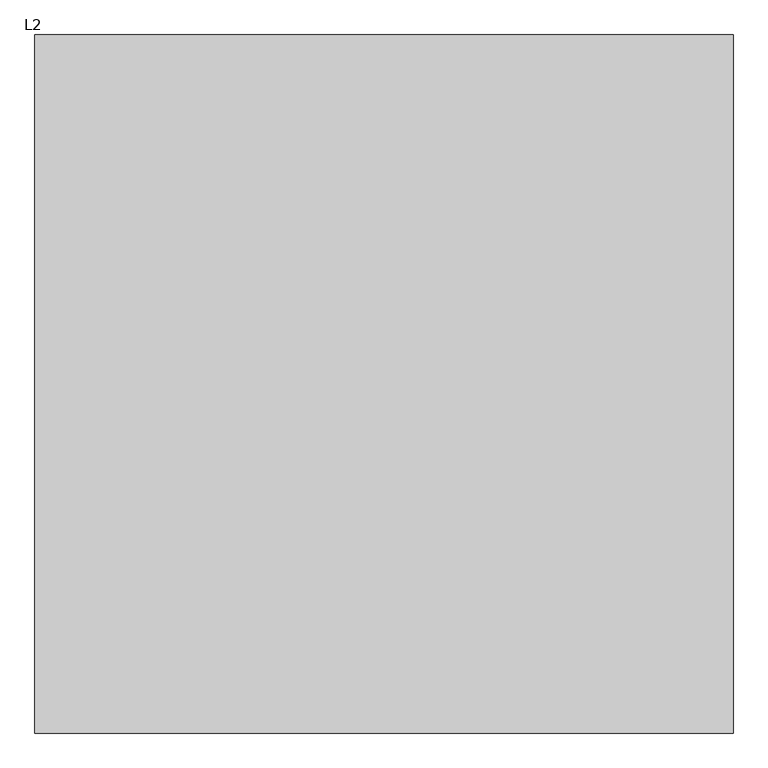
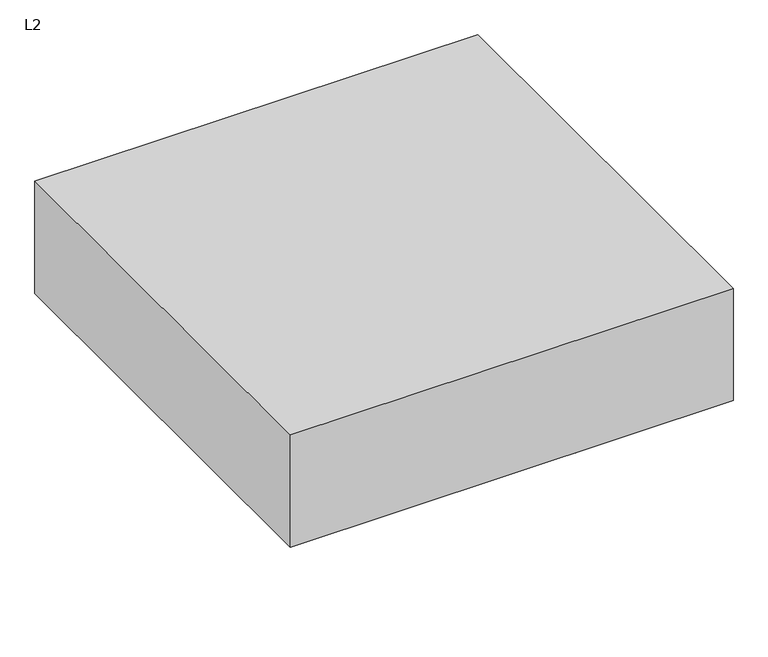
"""IFC4 building model written with IfcOpenShell, lengths in millimetres: proxy geometry, OWA Corpus : L2."""

from ifc_helpers import new_model, si_unit, point, frame, frame_2d, origin, place, context, project, spatial, polyline, circle_curve, trimmed, segment, composite_curve, outline, extrude, faceted_brep, source, transform, mapped, element, save
from ifc_brep_helpers import plane_surface, cylinder_surface, revolved_surface, advanced_brep


def l2_f4ee8ea0(model_context):
    return source(origin(), model_context, "Body", "SolidModel", [
        advanced_brep(
        [(-128.5, -305.0, 0.0), (-120.7593825, -305.0, 0.0), (-136.2406175, -305.0, 0.0), (-120.7593825, -305.0, 15.0), (-136.2406175, -305.0, 15.0), (-121.6843825, -305.0, 15.0), (-135.3156175, -305.0, 15.0), (-121.6843825, -305.0, 19.0), (-135.3156175, -305.0, 19.0), (-126.4343825, -305.0, 19.0), (-130.5656175, -305.0, 19.0), (-126.4343825, -305.0, 22.546183), (-130.5656175, -305.0, 22.546183), (-128.5, -305.0, 22.546183)],
        [
            (0, 1),
            (1, 2, circle_curve(frame((-128.5, -305.0, 0.0), z_axis=(0.0, 0.0, -1.0), x_axis=(-1.0, 0.0, 0.0)), 7.7406175)),
            (2, 0),
            (2, 1, circle_curve(frame((-128.5, -305.0, 0.0), z_axis=(0.0, 0.0, -1.0), x_axis=(-1.0, 0.0, 0.0)), 7.7406175)),
            (1, 3),
            (3, 4, circle_curve(frame((-128.5, -305.0, 15.0), z_axis=(0.0, 0.0, -1.0), x_axis=(-1.0, 0.0, 0.0)), 7.7406175)),
            (4, 2),
            (4, 3, circle_curve(frame((-128.5, -305.0, 15.0), z_axis=(0.0, 0.0, -1.0), x_axis=(-1.0, 0.0, 0.0)), 7.7406175)),
            (3, 5),
            (5, 6, circle_curve(frame((-128.5, -305.0, 15.0), z_axis=(0.0, 0.0, -1.0), x_axis=(-1.0, 0.0, 0.0)), 6.8156175)),
            (6, 4),
            (6, 5, circle_curve(frame((-128.5, -305.0, 15.0), z_axis=(0.0, 0.0, -1.0), x_axis=(-1.0, 0.0, 0.0)), 6.8156175)),
            (5, 7),
            (7, 8, circle_curve(frame((-128.5, -305.0, 19.0), z_axis=(0.0, 0.0, -1.0), x_axis=(-1.0, 0.0, 0.0)), 6.8156175)),
            (8, 6),
            (8, 7, circle_curve(frame((-128.5, -305.0, 19.0), z_axis=(0.0, 0.0, -1.0), x_axis=(-1.0, 0.0, 0.0)), 6.8156175)),
            (7, 9),
            (9, 10, circle_curve(frame((-128.5, -305.0, 19.0), z_axis=(0.0, 0.0, -1.0), x_axis=(-1.0, 0.0, 0.0)), 2.0656175)),
            (10, 8),
            (10, 9, circle_curve(frame((-128.5, -305.0, 19.0), z_axis=(0.0, 0.0, -1.0), x_axis=(-1.0, 0.0, 0.0)), 2.0656175)),
            (9, 11),
            (11, 12, circle_curve(frame((-128.5, -305.0, 22.546183), z_axis=(0.0, 0.0, -1.0), x_axis=(-1.0, 0.0, 0.0)), 2.0656175)),
            (12, 10),
            (12, 11, circle_curve(frame((-128.5, -305.0, 22.546183), z_axis=(0.0, 0.0, -1.0), x_axis=(-1.0, 0.0, 0.0)), 2.0656175)),
            (11, 13),
            (13, 12),
        ],
        [
            plane_surface(frame((-128.5, -305.0, 0.0), z_axis=(0.0, 0.0, -1.0), x_axis=(-1.0, 0.0, 0.0))),
            cylinder_surface(frame((-128.5, -305.0, -10.0), z_axis=(0.0, 0.0, -1.0), x_axis=(-1.0, 0.0, 0.0)), 7.7406175),
            plane_surface(frame((-128.5, -305.0, 15.0), z_axis=(0.0, 0.0, 1.0), x_axis=(-1.0, 0.0, 0.0))),
            cylinder_surface(frame((-128.5, -305.0, -10.0), z_axis=(0.0, 0.0, -1.0), x_axis=(-1.0, 0.0, 0.0)), 6.8156175),
            plane_surface(frame((-128.5, -305.0, 19.0), z_axis=(0.0, 0.0, 1.0), x_axis=(-1.0, 0.0, 0.0))),
            cylinder_surface(frame((-128.5, -305.0, -10.0), z_axis=(0.0, 0.0, -1.0), x_axis=(-1.0, 0.0, 0.0)), 2.0656175),
            plane_surface(frame((-128.5, -305.0, 22.546183), z_axis=(0.0, 0.0, 1.0), x_axis=(-1.0, 0.0, 0.0))),
        ],
        [
            (0, [[1, 2, 3]]),
            (0, [[-3, 4, -1]]),
            (1, [[5, 6, 7, -2]]),
            (1, [[-7, 8, -5, -4]]),
            (2, [[9, 10, 11, -6]]),
            (2, [[-11, 12, -9, -8]]),
            (3, [[13, 14, 15, -10]]),
            (3, [[-15, 16, -13, -12]]),
            (4, [[17, 18, 19, -14]]),
            (4, [[-19, 20, -17, -16]]),
            (5, [[21, 22, 23, -18]]),
            (5, [[-23, 24, -21, -20]]),
            (6, [[25, 26, -22]]),
            (6, [[-26, -25, -24]]),
        ],
    ),
        advanced_brep(
        [(-126.2615389, -305.0, 428.8211737), (-126.1339453, -305.0, 432.8711737), (-130.8660547, -305.0, 432.8711737), (-130.7384611, -305.0, 428.8211737), (-123.6339453, -305.0, 432.8711737), (-133.3660547, -305.0, 432.8711737), (-123.6339453, -305.0, 458.1211737), (-133.3660547, -305.0, 458.1211737), (-112.6339453, -305.0, 458.1211737), (-144.3660547, -305.0, 458.1211737), (-112.6339453, -305.0, 460.0), (-144.3660547, -305.0, 460.0), (-128.5, -305.0, 460.0), (-128.5, -305.0, 428.8211737)],
        [
            (0, 1),
            (1, 2, circle_curve(frame((-128.5, -305.0, 432.8711737), z_axis=(0.0, 0.0, -1.0), x_axis=(-1.0, 0.0, 0.0)), 2.3660547)),
            (2, 3),
            (3, 0, circle_curve(frame((-128.5, -305.0, 428.8211737), z_axis=(0.0, 0.0, 1.0), x_axis=(-1.0, 0.0, 0.0)), 2.2384611)),
            (2, 1, circle_curve(frame((-128.5, -305.0, 432.8711737), z_axis=(0.0, 0.0, -1.0), x_axis=(-1.0, 0.0, 0.0)), 2.3660547)),
            (0, 3, circle_curve(frame((-128.5, -305.0, 428.8211737), z_axis=(0.0, 0.0, 1.0), x_axis=(-1.0, 0.0, 0.0)), 2.2384611)),
            (1, 4),
            (4, 5, circle_curve(frame((-128.5, -305.0, 432.8711737), z_axis=(0.0, 0.0, -1.0), x_axis=(-1.0, 0.0, 0.0)), 4.8660547)),
            (5, 2),
            (5, 4, circle_curve(frame((-128.5, -305.0, 432.8711737), z_axis=(0.0, 0.0, -1.0), x_axis=(-1.0, 0.0, 0.0)), 4.8660547)),
            (4, 6),
            (6, 7, circle_curve(frame((-128.5, -305.0, 458.1211737), z_axis=(0.0, 0.0, -1.0), x_axis=(-1.0, 0.0, 0.0)), 4.8660547)),
            (7, 5),
            (7, 6, circle_curve(frame((-128.5, -305.0, 458.1211737), z_axis=(0.0, 0.0, -1.0), x_axis=(-1.0, 0.0, 0.0)), 4.8660547)),
            (6, 8),
            (8, 9, circle_curve(frame((-128.5, -305.0, 458.1211737), z_axis=(0.0, 0.0, -1.0), x_axis=(-1.0, 0.0, 0.0)), 15.8660547)),
            (9, 7),
            (9, 8, circle_curve(frame((-128.5, -305.0, 458.1211737), z_axis=(0.0, 0.0, -1.0), x_axis=(-1.0, 0.0, 0.0)), 15.8660547)),
            (8, 10),
            (10, 11, circle_curve(frame((-128.5, -305.0, 460.0), z_axis=(0.0, 0.0, -1.0), x_axis=(-1.0, 0.0, 0.0)), 15.8660547)),
            (11, 9),
            (11, 10, circle_curve(frame((-128.5, -305.0, 460.0), z_axis=(0.0, 0.0, -1.0), x_axis=(-1.0, 0.0, 0.0)), 15.8660547)),
            (10, 12),
            (12, 11),
            (13, 0),
            (3, 13),
        ],
        [
            revolved_surface(polyline([(-130.8660547, -305.0, 432.8711737), (-130.7384611, -305.0, 428.8211737)]), (-128.5, -305.0, 461.8401096), (0.0, 0.0, -1.0)),
            plane_surface(frame((-128.5, -305.0, 432.8711737), z_axis=(0.0, 0.0, -1.0), x_axis=(-1.0, 0.0, 0.0))),
            cylinder_surface(frame((-128.5, -305.0, 461.8401096), z_axis=(0.0, 0.0, -1.0), x_axis=(-1.0, 0.0, 0.0)), 4.8660547),
            plane_surface(frame((-128.5, -305.0, 458.1211737), z_axis=(0.0, 0.0, -1.0), x_axis=(-1.0, 0.0, 0.0))),
            cylinder_surface(frame((-128.5, -305.0, 461.8401096), z_axis=(0.0, 0.0, -1.0), x_axis=(-1.0, 0.0, 0.0)), 15.8660547),
            plane_surface(frame((-128.5, -305.0, 460.0), z_axis=(0.0, 0.0, 1.0), x_axis=(-1.0, 0.0, 0.0))),
            plane_surface(frame((-128.5, -305.0, 428.8211737), z_axis=(0.0, 0.0, -1.0), x_axis=(-1.0, 0.0, 0.0))),
        ],
        [
            (0, [[1, 2, 3, 4]]),
            (0, [[-3, 5, -1, 6]]),
            (1, [[7, 8, 9, -2]]),
            (1, [[-9, 10, -7, -5]]),
            (2, [[11, 12, 13, -8]]),
            (2, [[-13, 14, -11, -10]]),
            (3, [[15, 16, 17, -12]]),
            (3, [[-17, 18, -15, -14]]),
            (4, [[19, 20, 21, -16]]),
            (4, [[-21, 22, -19, -18]]),
            (5, [[23, 24, -20]]),
            (5, [[-24, -23, -22]]),
            (6, [[25, -4, 26]]),
            (6, [[-26, -6, -25]]),
        ],
    ),
        extrude(outline(composite_curve([segment(trimmed(circle_curve(frame_2d((-128.5, -305.0)), 1.0), [point((-129.5, -305.0))], [point((-127.5, -305.0))], False, "CARTESIAN"), True, "CONTINUOUS"), segment(trimmed(circle_curve(frame_2d((-128.5, -305.0)), 1.0), [point((-127.5, -305.0))], [point((-129.5, -305.0))], False, "CARTESIAN"), True, "CONTINUOUS")], self_intersect=False)), frame((0.0, 0.0, 22.546183), z_axis=(0.0, 0.0, 1.0), x_axis=(1.0, 0.0, 0.0)), (0.0, 0.0, 1.0), 406.2749908),
        advanced_brep(
        [(-128.5, 305.0, 0.0), (-136.2406175, 305.0, 0.0), (-120.7593825, 305.0, 0.0), (-136.2406175, 305.0, 15.0), (-120.7593825, 305.0, 15.0), (-135.3156175, 305.0, 15.0), (-121.6843825, 305.0, 15.0), (-135.3156175, 305.0, 19.0), (-121.6843825, 305.0, 19.0), (-130.5656175, 305.0, 19.0), (-126.4343825, 305.0, 19.0), (-130.5656175, 305.0, 22.546183), (-126.4343825, 305.0, 22.546183), (-128.5, 305.0, 22.546183)],
        [
            (0, 1),
            (1, 2, circle_curve(frame((-128.5, 305.0, 0.0), z_axis=(0.0, 0.0, -1.0), x_axis=(-1.0, 0.0, 0.0)), 7.7406175)),
            (2, 0),
            (2, 1, circle_curve(frame((-128.5, 305.0, 0.0), z_axis=(0.0, 0.0, -1.0), x_axis=(-1.0, 0.0, 0.0)), 7.7406175)),
            (1, 3),
            (3, 4, circle_curve(frame((-128.5, 305.0, 15.0), z_axis=(0.0, 0.0, -1.0), x_axis=(-1.0, 0.0, 0.0)), 7.7406175)),
            (4, 2),
            (4, 3, circle_curve(frame((-128.5, 305.0, 15.0), z_axis=(0.0, 0.0, -1.0), x_axis=(-1.0, 0.0, 0.0)), 7.7406175)),
            (3, 5),
            (5, 6, circle_curve(frame((-128.5, 305.0, 15.0), z_axis=(0.0, 0.0, -1.0), x_axis=(-1.0, 0.0, 0.0)), 6.8156175)),
            (6, 4),
            (6, 5, circle_curve(frame((-128.5, 305.0, 15.0), z_axis=(0.0, 0.0, -1.0), x_axis=(-1.0, 0.0, 0.0)), 6.8156175)),
            (5, 7),
            (7, 8, circle_curve(frame((-128.5, 305.0, 19.0), z_axis=(0.0, 0.0, -1.0), x_axis=(-1.0, 0.0, 0.0)), 6.8156175)),
            (8, 6),
            (8, 7, circle_curve(frame((-128.5, 305.0, 19.0), z_axis=(0.0, 0.0, -1.0), x_axis=(-1.0, 0.0, 0.0)), 6.8156175)),
            (7, 9),
            (9, 10, circle_curve(frame((-128.5, 305.0, 19.0), z_axis=(0.0, 0.0, -1.0), x_axis=(-1.0, 0.0, 0.0)), 2.0656175)),
            (10, 8),
            (10, 9, circle_curve(frame((-128.5, 305.0, 19.0), z_axis=(0.0, 0.0, -1.0), x_axis=(-1.0, 0.0, 0.0)), 2.0656175)),
            (9, 11),
            (11, 12, circle_curve(frame((-128.5, 305.0, 22.546183), z_axis=(0.0, 0.0, -1.0), x_axis=(-1.0, 0.0, 0.0)), 2.0656175)),
            (12, 10),
            (12, 11, circle_curve(frame((-128.5, 305.0, 22.546183), z_axis=(0.0, 0.0, -1.0), x_axis=(-1.0, 0.0, 0.0)), 2.0656175)),
            (11, 13),
            (13, 12),
        ],
        [
            plane_surface(frame((-128.5, 305.0, 0.0), z_axis=(0.0, 0.0, -1.0), x_axis=(-1.0, 0.0, 0.0))),
            cylinder_surface(frame((-128.5, 305.0, -10.0), z_axis=(0.0, 0.0, -1.0), x_axis=(-1.0, 0.0, 0.0)), 7.7406175),
            plane_surface(frame((-128.5, 305.0, 15.0), z_axis=(0.0, 0.0, 1.0), x_axis=(-1.0, 0.0, 0.0))),
            cylinder_surface(frame((-128.5, 305.0, -10.0), z_axis=(0.0, 0.0, -1.0), x_axis=(-1.0, 0.0, 0.0)), 6.8156175),
            plane_surface(frame((-128.5, 305.0, 19.0), z_axis=(0.0, 0.0, 1.0), x_axis=(-1.0, 0.0, 0.0))),
            cylinder_surface(frame((-128.5, 305.0, -10.0), z_axis=(0.0, 0.0, -1.0), x_axis=(-1.0, 0.0, 0.0)), 2.0656175),
            plane_surface(frame((-128.5, 305.0, 22.546183), z_axis=(0.0, 0.0, 1.0), x_axis=(-1.0, 0.0, 0.0))),
        ],
        [
            (0, [[1, 2, 3]]),
            (0, [[-3, 4, -1]]),
            (1, [[-2, 5, 6, 7]]),
            (1, [[-4, -7, 8, -5]]),
            (2, [[-6, 9, 10, 11]]),
            (2, [[-8, -11, 12, -9]]),
            (3, [[-10, 13, 14, 15]]),
            (3, [[-12, -15, 16, -13]]),
            (4, [[-14, 17, 18, 19]]),
            (4, [[-16, -19, 20, -17]]),
            (5, [[-18, 21, 22, 23]]),
            (5, [[-20, -23, 24, -21]]),
            (6, [[-22, 25, 26]]),
            (6, [[-24, -26, -25]]),
        ],
    ),
        advanced_brep(
        [(-126.2615389, 305.0, 428.8211737), (-130.7384611, 305.0, 428.8211737), (-130.8660547, 305.0, 432.8711737), (-126.1339453, 305.0, 432.8711737), (-133.3660547, 305.0, 432.8711737), (-123.6339453, 305.0, 432.8711737), (-133.3660547, 305.0, 458.1211737), (-123.6339453, 305.0, 458.1211737), (-144.3660547, 305.0, 458.1211737), (-112.6339453, 305.0, 458.1211737), (-144.3660547, 305.0, 460.0), (-112.6339453, 305.0, 460.0), (-128.5, 305.0, 460.0), (-128.5, 305.0, 428.8211737)],
        [
            (0, 1, circle_curve(frame((-128.5, 305.0, 428.8211737), z_axis=(0.0, 0.0, 1.0), x_axis=(-1.0, 0.0, 0.0)), 2.2384611)),
            (1, 2),
            (2, 3, circle_curve(frame((-128.5, 305.0, 432.8711737), z_axis=(0.0, 0.0, -1.0), x_axis=(-1.0, 0.0, 0.0)), 2.3660547)),
            (3, 0),
            (1, 0, circle_curve(frame((-128.5, 305.0, 428.8211737), z_axis=(0.0, 0.0, 1.0), x_axis=(-1.0, 0.0, 0.0)), 2.2384611)),
            (3, 2, circle_curve(frame((-128.5, 305.0, 432.8711737), z_axis=(0.0, 0.0, -1.0), x_axis=(-1.0, 0.0, 0.0)), 2.3660547)),
            (2, 4),
            (4, 5, circle_curve(frame((-128.5, 305.0, 432.8711737), z_axis=(0.0, 0.0, -1.0), x_axis=(-1.0, 0.0, 0.0)), 4.8660547)),
            (5, 3),
            (5, 4, circle_curve(frame((-128.5, 305.0, 432.8711737), z_axis=(0.0, 0.0, -1.0), x_axis=(-1.0, 0.0, 0.0)), 4.8660547)),
            (4, 6),
            (6, 7, circle_curve(frame((-128.5, 305.0, 458.1211737), z_axis=(0.0, 0.0, -1.0), x_axis=(-1.0, 0.0, 0.0)), 4.8660547)),
            (7, 5),
            (7, 6, circle_curve(frame((-128.5, 305.0, 458.1211737), z_axis=(0.0, 0.0, -1.0), x_axis=(-1.0, 0.0, 0.0)), 4.8660547)),
            (6, 8),
            (8, 9, circle_curve(frame((-128.5, 305.0, 458.1211737), z_axis=(0.0, 0.0, -1.0), x_axis=(-1.0, 0.0, 0.0)), 15.8660547)),
            (9, 7),
            (9, 8, circle_curve(frame((-128.5, 305.0, 458.1211737), z_axis=(0.0, 0.0, -1.0), x_axis=(-1.0, 0.0, 0.0)), 15.8660547)),
            (8, 10),
            (10, 11, circle_curve(frame((-128.5, 305.0, 460.0), z_axis=(0.0, 0.0, -1.0), x_axis=(-1.0, 0.0, 0.0)), 15.8660547)),
            (11, 9),
            (11, 10, circle_curve(frame((-128.5, 305.0, 460.0), z_axis=(0.0, 0.0, -1.0), x_axis=(-1.0, 0.0, 0.0)), 15.8660547)),
            (10, 12),
            (12, 11),
            (13, 1),
            (0, 13),
        ],
        [
            revolved_surface(polyline([(-130.8660547, 305.0, 432.8711737), (-130.7384611, 305.0, 428.8211737)]), (-128.5, 305.0, 461.8401096), (0.0, 0.0, -1.0)),
            plane_surface(frame((-128.5, 305.0, 432.8711737), z_axis=(0.0, 0.0, -1.0), x_axis=(-1.0, 0.0, 0.0))),
            cylinder_surface(frame((-128.5, 305.0, 461.8401096), z_axis=(0.0, 0.0, -1.0), x_axis=(-1.0, 0.0, 0.0)), 4.8660547),
            plane_surface(frame((-128.5, 305.0, 458.1211737), z_axis=(0.0, 0.0, -1.0), x_axis=(-1.0, 0.0, 0.0))),
            cylinder_surface(frame((-128.5, 305.0, 461.8401096), z_axis=(0.0, 0.0, -1.0), x_axis=(-1.0, 0.0, 0.0)), 15.8660547),
            plane_surface(frame((-128.5, 305.0, 460.0), z_axis=(0.0, 0.0, 1.0), x_axis=(-1.0, 0.0, 0.0))),
            plane_surface(frame((-128.5, 305.0, 428.8211737), z_axis=(0.0, 0.0, -1.0), x_axis=(-1.0, 0.0, 0.0))),
        ],
        [
            (0, [[1, 2, 3, 4]]),
            (0, [[5, -4, 6, -2]]),
            (1, [[-3, 7, 8, 9]]),
            (1, [[-6, -9, 10, -7]]),
            (2, [[-8, 11, 12, 13]]),
            (2, [[-10, -13, 14, -11]]),
            (3, [[-12, 15, 16, 17]]),
            (3, [[-14, -17, 18, -15]]),
            (4, [[-16, 19, 20, 21]]),
            (4, [[-18, -21, 22, -19]]),
            (5, [[-20, 23, 24]]),
            (5, [[-22, -24, -23]]),
            (6, [[25, -1, 26]]),
            (6, [[-26, -5, -25]]),
        ],
    ),
        extrude(outline(composite_curve([segment(trimmed(circle_curve(frame_2d((-128.5, 305.0)), 1.0), [point((-129.5, 305.0))], [point((-127.5, 305.0))], False, "CARTESIAN"), True, "CONTINUOUS"), segment(trimmed(circle_curve(frame_2d((-128.5, 305.0)), 1.0), [point((-127.5, 305.0))], [point((-129.5, 305.0))], False, "CARTESIAN"), True, "CONTINUOUS")], self_intersect=False)), frame((0.0, 0.0, 22.546183), z_axis=(0.0, 0.0, 1.0), x_axis=(1.0, 0.0, 0.0)), (0.0, 0.0, 1.0), 406.2749908),
        advanced_brep(
        [(-738.5, -305.0, 0.0), (-730.7593825, -305.0, 0.0), (-746.2406175, -305.0, 0.0), (-730.7593825, -305.0, 15.0), (-746.2406175, -305.0, 15.0), (-731.6843825, -305.0, 15.0), (-745.3156175, -305.0, 15.0), (-731.6843825, -305.0, 19.0), (-745.3156175, -305.0, 19.0), (-736.4343825, -305.0, 19.0), (-740.5656175, -305.0, 19.0), (-736.4343825, -305.0, 22.546183), (-740.5656175, -305.0, 22.546183), (-738.5, -305.0, 22.546183)],
        [
            (0, 1),
            (1, 2, circle_curve(frame((-738.5, -305.0, 0.0), z_axis=(0.0, 0.0, -1.0), x_axis=(-1.0, 0.0, 0.0)), 7.7406175)),
            (2, 0),
            (2, 1, circle_curve(frame((-738.5, -305.0, 0.0), z_axis=(0.0, 0.0, -1.0), x_axis=(-1.0, 0.0, 0.0)), 7.7406175)),
            (1, 3),
            (3, 4, circle_curve(frame((-738.5, -305.0, 15.0), z_axis=(0.0, 0.0, -1.0), x_axis=(-1.0, 0.0, 0.0)), 7.7406175)),
            (4, 2),
            (4, 3, circle_curve(frame((-738.5, -305.0, 15.0), z_axis=(0.0, 0.0, -1.0), x_axis=(-1.0, 0.0, 0.0)), 7.7406175)),
            (3, 5),
            (5, 6, circle_curve(frame((-738.5, -305.0, 15.0), z_axis=(0.0, 0.0, -1.0), x_axis=(-1.0, 0.0, 0.0)), 6.8156175)),
            (6, 4),
            (6, 5, circle_curve(frame((-738.5, -305.0, 15.0), z_axis=(0.0, 0.0, -1.0), x_axis=(-1.0, 0.0, 0.0)), 6.8156175)),
            (5, 7),
            (7, 8, circle_curve(frame((-738.5, -305.0, 19.0), z_axis=(0.0, 0.0, -1.0), x_axis=(-1.0, 0.0, 0.0)), 6.8156175)),
            (8, 6),
            (8, 7, circle_curve(frame((-738.5, -305.0, 19.0), z_axis=(0.0, 0.0, -1.0), x_axis=(-1.0, 0.0, 0.0)), 6.8156175)),
            (7, 9),
            (9, 10, circle_curve(frame((-738.5, -305.0, 19.0), z_axis=(0.0, 0.0, -1.0), x_axis=(-1.0, 0.0, 0.0)), 2.0656175)),
            (10, 8),
            (10, 9, circle_curve(frame((-738.5, -305.0, 19.0), z_axis=(0.0, 0.0, -1.0), x_axis=(-1.0, 0.0, 0.0)), 2.0656175)),
            (9, 11),
            (11, 12, circle_curve(frame((-738.5, -305.0, 22.546183), z_axis=(0.0, 0.0, -1.0), x_axis=(-1.0, 0.0, 0.0)), 2.0656175)),
            (12, 10),
            (12, 11, circle_curve(frame((-738.5, -305.0, 22.546183), z_axis=(0.0, 0.0, -1.0), x_axis=(-1.0, 0.0, 0.0)), 2.0656175)),
            (11, 13),
            (13, 12),
        ],
        [
            plane_surface(frame((-738.5, -305.0, 0.0), z_axis=(0.0, 0.0, -1.0), x_axis=(-1.0, 0.0, 0.0))),
            cylinder_surface(frame((-738.5, -305.0, -10.0), z_axis=(0.0, 0.0, -1.0), x_axis=(-1.0, 0.0, 0.0)), 7.7406175),
            plane_surface(frame((-738.5, -305.0, 15.0), z_axis=(0.0, 0.0, 1.0), x_axis=(-1.0, 0.0, 0.0))),
            cylinder_surface(frame((-738.5, -305.0, -10.0), z_axis=(0.0, 0.0, -1.0), x_axis=(-1.0, 0.0, 0.0)), 6.8156175),
            plane_surface(frame((-738.5, -305.0, 19.0), z_axis=(0.0, 0.0, 1.0), x_axis=(-1.0, 0.0, 0.0))),
            cylinder_surface(frame((-738.5, -305.0, -10.0), z_axis=(0.0, 0.0, -1.0), x_axis=(-1.0, 0.0, 0.0)), 2.0656175),
            plane_surface(frame((-738.5, -305.0, 22.546183), z_axis=(0.0, 0.0, 1.0), x_axis=(-1.0, 0.0, 0.0))),
        ],
        [
            (0, [[1, 2, 3]]),
            (0, [[-3, 4, -1]]),
            (1, [[5, 6, 7, -2]]),
            (1, [[-7, 8, -5, -4]]),
            (2, [[9, 10, 11, -6]]),
            (2, [[-11, 12, -9, -8]]),
            (3, [[13, 14, 15, -10]]),
            (3, [[-15, 16, -13, -12]]),
            (4, [[17, 18, 19, -14]]),
            (4, [[-19, 20, -17, -16]]),
            (5, [[21, 22, 23, -18]]),
            (5, [[-23, 24, -21, -20]]),
            (6, [[25, 26, -22]]),
            (6, [[-26, -25, -24]]),
        ],
    ),
        advanced_brep(
        [(-736.2615389, -305.0, 428.8211737), (-736.1339453, -305.0, 432.8711737), (-740.8660547, -305.0, 432.8711737), (-740.7384611, -305.0, 428.8211737), (-733.6339453, -305.0, 432.8711737), (-743.3660547, -305.0, 432.8711737), (-733.6339453, -305.0, 458.1211737), (-743.3660547, -305.0, 458.1211737), (-722.6339453, -305.0, 458.1211737), (-754.3660547, -305.0, 458.1211737), (-722.6339453, -305.0, 460.0), (-754.3660547, -305.0, 460.0), (-738.5, -305.0, 460.0), (-738.5, -305.0, 428.8211737)],
        [
            (0, 1),
            (1, 2, circle_curve(frame((-738.5, -305.0, 432.8711737), z_axis=(0.0, 0.0, -1.0), x_axis=(-1.0, 0.0, 0.0)), 2.3660547)),
            (2, 3),
            (3, 0, circle_curve(frame((-738.5, -305.0, 428.8211737), z_axis=(0.0, 0.0, 1.0), x_axis=(-1.0, 0.0, 0.0)), 2.2384611)),
            (2, 1, circle_curve(frame((-738.5, -305.0, 432.8711737), z_axis=(0.0, 0.0, -1.0), x_axis=(-1.0, 0.0, 0.0)), 2.3660547)),
            (0, 3, circle_curve(frame((-738.5, -305.0, 428.8211737), z_axis=(0.0, 0.0, 1.0), x_axis=(-1.0, 0.0, 0.0)), 2.2384611)),
            (1, 4),
            (4, 5, circle_curve(frame((-738.5, -305.0, 432.8711737), z_axis=(0.0, 0.0, -1.0), x_axis=(-1.0, 0.0, 0.0)), 4.8660547)),
            (5, 2),
            (5, 4, circle_curve(frame((-738.5, -305.0, 432.8711737), z_axis=(0.0, 0.0, -1.0), x_axis=(-1.0, 0.0, 0.0)), 4.8660547)),
            (4, 6),
            (6, 7, circle_curve(frame((-738.5, -305.0, 458.1211737), z_axis=(0.0, 0.0, -1.0), x_axis=(-1.0, 0.0, 0.0)), 4.8660547)),
            (7, 5),
            (7, 6, circle_curve(frame((-738.5, -305.0, 458.1211737), z_axis=(0.0, 0.0, -1.0), x_axis=(-1.0, 0.0, 0.0)), 4.8660547)),
            (6, 8),
            (8, 9, circle_curve(frame((-738.5, -305.0, 458.1211737), z_axis=(0.0, 0.0, -1.0), x_axis=(-1.0, 0.0, 0.0)), 15.8660547)),
            (9, 7),
            (9, 8, circle_curve(frame((-738.5, -305.0, 458.1211737), z_axis=(0.0, 0.0, -1.0), x_axis=(-1.0, 0.0, 0.0)), 15.8660547)),
            (8, 10),
            (10, 11, circle_curve(frame((-738.5, -305.0, 460.0), z_axis=(0.0, 0.0, -1.0), x_axis=(-1.0, 0.0, 0.0)), 15.8660547)),
            (11, 9),
            (11, 10, circle_curve(frame((-738.5, -305.0, 460.0), z_axis=(0.0, 0.0, -1.0), x_axis=(-1.0, 0.0, 0.0)), 15.8660547)),
            (10, 12),
            (12, 11),
            (13, 0),
            (3, 13),
        ],
        [
            revolved_surface(polyline([(-740.8660547, -305.0, 432.8711737), (-740.7384611, -305.0, 428.8211737)]), (-738.5, -305.0, 461.8401096), (0.0, 0.0, -1.0)),
            plane_surface(frame((-738.5, -305.0, 432.8711737), z_axis=(0.0, 0.0, -1.0), x_axis=(-1.0, 0.0, 0.0))),
            cylinder_surface(frame((-738.5, -305.0, 461.8401096), z_axis=(0.0, 0.0, -1.0), x_axis=(-1.0, 0.0, 0.0)), 4.8660547),
            plane_surface(frame((-738.5, -305.0, 458.1211737), z_axis=(0.0, 0.0, -1.0), x_axis=(-1.0, 0.0, 0.0))),
            cylinder_surface(frame((-738.5, -305.0, 461.8401096), z_axis=(0.0, 0.0, -1.0), x_axis=(-1.0, 0.0, 0.0)), 15.8660547),
            plane_surface(frame((-738.5, -305.0, 460.0), z_axis=(0.0, 0.0, 1.0), x_axis=(-1.0, 0.0, 0.0))),
            plane_surface(frame((-738.5, -305.0, 428.8211737), z_axis=(0.0, 0.0, -1.0), x_axis=(-1.0, 0.0, 0.0))),
        ],
        [
            (0, [[1, 2, 3, 4]]),
            (0, [[-3, 5, -1, 6]]),
            (1, [[7, 8, 9, -2]]),
            (1, [[-9, 10, -7, -5]]),
            (2, [[11, 12, 13, -8]]),
            (2, [[-13, 14, -11, -10]]),
            (3, [[15, 16, 17, -12]]),
            (3, [[-17, 18, -15, -14]]),
            (4, [[19, 20, 21, -16]]),
            (4, [[-21, 22, -19, -18]]),
            (5, [[23, 24, -20]]),
            (5, [[-24, -23, -22]]),
            (6, [[25, -4, 26]]),
            (6, [[-26, -6, -25]]),
        ],
    ),
        extrude(outline(composite_curve([segment(trimmed(circle_curve(frame_2d((-738.5, -305.0)), 1.0), [point((-739.5, -305.0))], [point((-737.5, -305.0))], False, "CARTESIAN"), True, "CONTINUOUS"), segment(trimmed(circle_curve(frame_2d((-738.5, -305.0)), 1.0), [point((-737.5, -305.0))], [point((-739.5, -305.0))], False, "CARTESIAN"), True, "CONTINUOUS")], self_intersect=False)), frame((0.0, 0.0, 22.546183), z_axis=(0.0, 0.0, 1.0), x_axis=(1.0, 0.0, 0.0)), (0.0, 0.0, 1.0), 406.2749908),
        advanced_brep(
        [(-738.5, 305.0, 0.0), (-746.2406175, 305.0, 0.0), (-730.7593825, 305.0, 0.0), (-746.2406175, 305.0, 15.0), (-730.7593825, 305.0, 15.0), (-745.3156175, 305.0, 15.0), (-731.6843825, 305.0, 15.0), (-745.3156175, 305.0, 19.0), (-731.6843825, 305.0, 19.0), (-740.5656175, 305.0, 19.0), (-736.4343825, 305.0, 19.0), (-740.5656175, 305.0, 22.546183), (-736.4343825, 305.0, 22.546183), (-738.5, 305.0, 22.546183)],
        [
            (0, 1),
            (1, 2, circle_curve(frame((-738.5, 305.0, 0.0), z_axis=(0.0, 0.0, -1.0), x_axis=(-1.0, 0.0, 0.0)), 7.7406175)),
            (2, 0),
            (2, 1, circle_curve(frame((-738.5, 305.0, 0.0), z_axis=(0.0, 0.0, -1.0), x_axis=(-1.0, 0.0, 0.0)), 7.7406175)),
            (1, 3),
            (3, 4, circle_curve(frame((-738.5, 305.0, 15.0), z_axis=(0.0, 0.0, -1.0), x_axis=(-1.0, 0.0, 0.0)), 7.7406175)),
            (4, 2),
            (4, 3, circle_curve(frame((-738.5, 305.0, 15.0), z_axis=(0.0, 0.0, -1.0), x_axis=(-1.0, 0.0, 0.0)), 7.7406175)),
            (3, 5),
            (5, 6, circle_curve(frame((-738.5, 305.0, 15.0), z_axis=(0.0, 0.0, -1.0), x_axis=(-1.0, 0.0, 0.0)), 6.8156175)),
            (6, 4),
            (6, 5, circle_curve(frame((-738.5, 305.0, 15.0), z_axis=(0.0, 0.0, -1.0), x_axis=(-1.0, 0.0, 0.0)), 6.8156175)),
            (5, 7),
            (7, 8, circle_curve(frame((-738.5, 305.0, 19.0), z_axis=(0.0, 0.0, -1.0), x_axis=(-1.0, 0.0, 0.0)), 6.8156175)),
            (8, 6),
            (8, 7, circle_curve(frame((-738.5, 305.0, 19.0), z_axis=(0.0, 0.0, -1.0), x_axis=(-1.0, 0.0, 0.0)), 6.8156175)),
            (7, 9),
            (9, 10, circle_curve(frame((-738.5, 305.0, 19.0), z_axis=(0.0, 0.0, -1.0), x_axis=(-1.0, 0.0, 0.0)), 2.0656175)),
            (10, 8),
            (10, 9, circle_curve(frame((-738.5, 305.0, 19.0), z_axis=(0.0, 0.0, -1.0), x_axis=(-1.0, 0.0, 0.0)), 2.0656175)),
            (9, 11),
            (11, 12, circle_curve(frame((-738.5, 305.0, 22.546183), z_axis=(0.0, 0.0, -1.0), x_axis=(-1.0, 0.0, 0.0)), 2.0656175)),
            (12, 10),
            (12, 11, circle_curve(frame((-738.5, 305.0, 22.546183), z_axis=(0.0, 0.0, -1.0), x_axis=(-1.0, 0.0, 0.0)), 2.0656175)),
            (11, 13),
            (13, 12),
        ],
        [
            plane_surface(frame((-738.5, 305.0, 0.0), z_axis=(0.0, 0.0, -1.0), x_axis=(-1.0, 0.0, 0.0))),
            cylinder_surface(frame((-738.5, 305.0, -10.0), z_axis=(0.0, 0.0, -1.0), x_axis=(-1.0, 0.0, 0.0)), 7.7406175),
            plane_surface(frame((-738.5, 305.0, 15.0), z_axis=(0.0, 0.0, 1.0), x_axis=(-1.0, 0.0, 0.0))),
            cylinder_surface(frame((-738.5, 305.0, -10.0), z_axis=(0.0, 0.0, -1.0), x_axis=(-1.0, 0.0, 0.0)), 6.8156175),
            plane_surface(frame((-738.5, 305.0, 19.0), z_axis=(0.0, 0.0, 1.0), x_axis=(-1.0, 0.0, 0.0))),
            cylinder_surface(frame((-738.5, 305.0, -10.0), z_axis=(0.0, 0.0, -1.0), x_axis=(-1.0, 0.0, 0.0)), 2.0656175),
            plane_surface(frame((-738.5, 305.0, 22.546183), z_axis=(0.0, 0.0, 1.0), x_axis=(-1.0, 0.0, 0.0))),
        ],
        [
            (0, [[1, 2, 3]]),
            (0, [[-3, 4, -1]]),
            (1, [[-2, 5, 6, 7]]),
            (1, [[-4, -7, 8, -5]]),
            (2, [[-6, 9, 10, 11]]),
            (2, [[-8, -11, 12, -9]]),
            (3, [[-10, 13, 14, 15]]),
            (3, [[-12, -15, 16, -13]]),
            (4, [[-14, 17, 18, 19]]),
            (4, [[-16, -19, 20, -17]]),
            (5, [[-18, 21, 22, 23]]),
            (5, [[-20, -23, 24, -21]]),
            (6, [[-22, 25, 26]]),
            (6, [[-24, -26, -25]]),
        ],
    ),
        advanced_brep(
        [(-736.2615389, 305.0, 428.8211737), (-740.7384611, 305.0, 428.8211737), (-740.8660547, 305.0, 432.8711737), (-736.1339453, 305.0, 432.8711737), (-743.3660547, 305.0, 432.8711737), (-733.6339453, 305.0, 432.8711737), (-743.3660547, 305.0, 458.1211737), (-733.6339453, 305.0, 458.1211737), (-754.3660547, 305.0, 458.1211737), (-722.6339453, 305.0, 458.1211737), (-754.3660547, 305.0, 460.0), (-722.6339453, 305.0, 460.0), (-738.5, 305.0, 460.0), (-738.5, 305.0, 428.8211737)],
        [
            (0, 1, circle_curve(frame((-738.5, 305.0, 428.8211737), z_axis=(0.0, 0.0, 1.0), x_axis=(-1.0, 0.0, 0.0)), 2.2384611)),
            (1, 2),
            (2, 3, circle_curve(frame((-738.5, 305.0, 432.8711737), z_axis=(0.0, 0.0, -1.0), x_axis=(-1.0, 0.0, 0.0)), 2.3660547)),
            (3, 0),
            (1, 0, circle_curve(frame((-738.5, 305.0, 428.8211737), z_axis=(0.0, 0.0, 1.0), x_axis=(-1.0, 0.0, 0.0)), 2.2384611)),
            (3, 2, circle_curve(frame((-738.5, 305.0, 432.8711737), z_axis=(0.0, 0.0, -1.0), x_axis=(-1.0, 0.0, 0.0)), 2.3660547)),
            (2, 4),
            (4, 5, circle_curve(frame((-738.5, 305.0, 432.8711737), z_axis=(0.0, 0.0, -1.0), x_axis=(-1.0, 0.0, 0.0)), 4.8660547)),
            (5, 3),
            (5, 4, circle_curve(frame((-738.5, 305.0, 432.8711737), z_axis=(0.0, 0.0, -1.0), x_axis=(-1.0, 0.0, 0.0)), 4.8660547)),
            (4, 6),
            (6, 7, circle_curve(frame((-738.5, 305.0, 458.1211737), z_axis=(0.0, 0.0, -1.0), x_axis=(-1.0, 0.0, 0.0)), 4.8660547)),
            (7, 5),
            (7, 6, circle_curve(frame((-738.5, 305.0, 458.1211737), z_axis=(0.0, 0.0, -1.0), x_axis=(-1.0, 0.0, 0.0)), 4.8660547)),
            (6, 8),
            (8, 9, circle_curve(frame((-738.5, 305.0, 458.1211737), z_axis=(0.0, 0.0, -1.0), x_axis=(-1.0, 0.0, 0.0)), 15.8660547)),
            (9, 7),
            (9, 8, circle_curve(frame((-738.5, 305.0, 458.1211737), z_axis=(0.0, 0.0, -1.0), x_axis=(-1.0, 0.0, 0.0)), 15.8660547)),
            (8, 10),
            (10, 11, circle_curve(frame((-738.5, 305.0, 460.0), z_axis=(0.0, 0.0, -1.0), x_axis=(-1.0, 0.0, 0.0)), 15.8660547)),
            (11, 9),
            (11, 10, circle_curve(frame((-738.5, 305.0, 460.0), z_axis=(0.0, 0.0, -1.0), x_axis=(-1.0, 0.0, 0.0)), 15.8660547)),
            (10, 12),
            (12, 11),
            (13, 1),
            (0, 13),
        ],
        [
            revolved_surface(polyline([(-740.8660547, 305.0, 432.8711737), (-740.7384611, 305.0, 428.8211737)]), (-738.5, 305.0, 461.8401096), (0.0, 0.0, -1.0)),
            plane_surface(frame((-738.5, 305.0, 432.8711737), z_axis=(0.0, 0.0, -1.0), x_axis=(-1.0, 0.0, 0.0))),
            cylinder_surface(frame((-738.5, 305.0, 461.8401096), z_axis=(0.0, 0.0, -1.0), x_axis=(-1.0, 0.0, 0.0)), 4.8660547),
            plane_surface(frame((-738.5, 305.0, 458.1211737), z_axis=(0.0, 0.0, -1.0), x_axis=(-1.0, 0.0, 0.0))),
            cylinder_surface(frame((-738.5, 305.0, 461.8401096), z_axis=(0.0, 0.0, -1.0), x_axis=(-1.0, 0.0, 0.0)), 15.8660547),
            plane_surface(frame((-738.5, 305.0, 460.0), z_axis=(0.0, 0.0, 1.0), x_axis=(-1.0, 0.0, 0.0))),
            plane_surface(frame((-738.5, 305.0, 428.8211737), z_axis=(0.0, 0.0, -1.0), x_axis=(-1.0, 0.0, 0.0))),
        ],
        [
            (0, [[1, 2, 3, 4]]),
            (0, [[5, -4, 6, -2]]),
            (1, [[-3, 7, 8, 9]]),
            (1, [[-6, -9, 10, -7]]),
            (2, [[-8, 11, 12, 13]]),
            (2, [[-10, -13, 14, -11]]),
            (3, [[-12, 15, 16, 17]]),
            (3, [[-14, -17, 18, -15]]),
            (4, [[-16, 19, 20, 21]]),
            (4, [[-18, -21, 22, -19]]),
            (5, [[-20, 23, 24]]),
            (5, [[-22, -24, -23]]),
            (6, [[25, -1, 26]]),
            (6, [[-26, -5, -25]]),
        ],
    ),
        extrude(outline(composite_curve([segment(trimmed(circle_curve(frame_2d((-738.5, 305.0)), 1.0), [point((-739.5, 305.0))], [point((-737.5, 305.0))], False, "CARTESIAN"), True, "CONTINUOUS"), segment(trimmed(circle_curve(frame_2d((-738.5, 305.0)), 1.0), [point((-737.5, 305.0))], [point((-739.5, 305.0))], False, "CARTESIAN"), True, "CONTINUOUS")], self_intersect=False)), frame((0.0, 0.0, 22.546183), z_axis=(0.0, 0.0, 1.0), x_axis=(1.0, 0.0, 0.0)), (0.0, 0.0, 1.0), 406.2749908),
        faceted_brep([(126.5, 560.0, 500.0), (-993.5, 560.0, 500.0), (-993.5, -560.0, 500.0), (126.5, -560.0, 500.0), (86.5, 520.0, 460.0), (86.5, -520.0, 460.0), (-953.5, -520.0, 460.0), (-953.5, 520.0, 460.0), (126.5, 560.0, 200.0), (-993.5, 560.0, 200.0), (-993.5, -560.0, 200.0), (126.5, -560.0, 200.0), (86.5, 520.0, 200.0), (-953.5, 520.0, 200.0), (-953.5, -520.0, 200.0), (86.5, -520.0, 200.0)], [[[0, 1, 2, 3]], [[4, 5, 6, 7]], [[1, 0, 8, 9]], [[2, 1, 9, 10]], [[3, 2, 10, 11]], [[8, 0, 3, 11]], [[8, 11, 10, 9], [12, 13, 14, 15]], [[12, 15, 5, 4]], [[15, 14, 6, 5]], [[14, 13, 7, 6]], [[13, 12, 4, 7]]]),
    ])


if __name__ == "__main__":
    model = new_model("IFC4")
    model_context = context("Model", 3, world=origin())
    ifc_project = project(units=[si_unit("LENGTHUNIT", "METRE", prefix="MILLI")], contexts=[model_context])
    site = spatial("IfcSite", under=ifc_project)
    building = spatial("IfcBuilding", under=site)
    placement = place(None, origin())
    l2_shape = l2_f4ee8ea0(model_context)
    element("IfcBuildingElementProxy", 1, Name="OWA Corpus : L2", ObjectType="OWA Corpus : L2", at=placement, inside=building, context=model_context, shape_type="MappedRepresentation", body=[
        mapped(l2_shape, transform((0.0, 0.0, 0.0), x_axis=(1.0, 0.0, 0.0), y_axis=(0.0, 1.0, 0.0), z_axis=(0.0, 0.0, 1.0))),
    ])
    save(model, "model.ifc")
